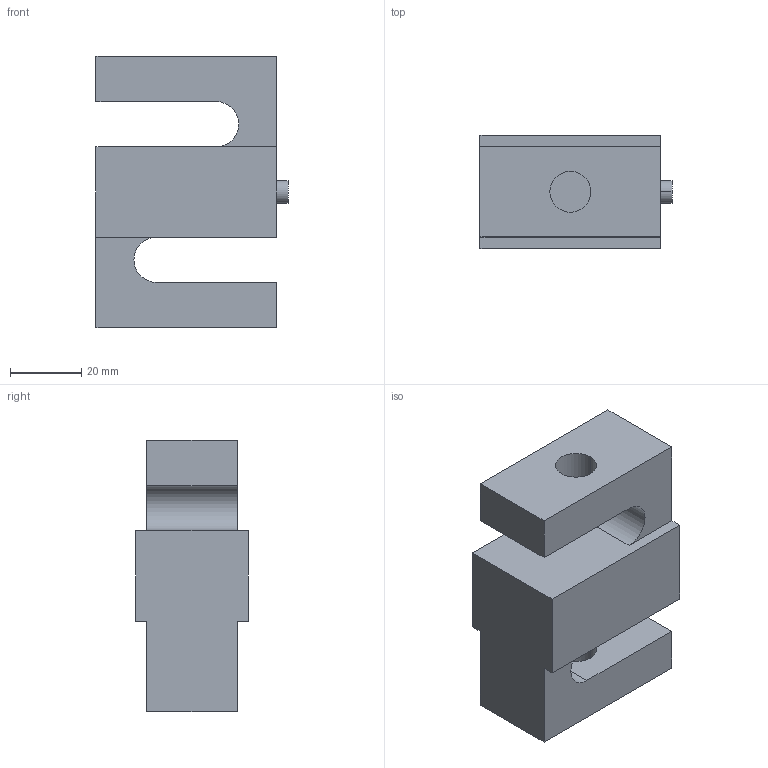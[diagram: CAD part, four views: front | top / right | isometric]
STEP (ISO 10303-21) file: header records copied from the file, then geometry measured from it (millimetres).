
FILE_DESCRIPTION (( 'STEP AP214' ), '1' );
FILE_NAME ('SS1009-2-3K.STEP', '2014-05-20T18:49:17', ( '' ), ( '' ), 'SwSTEP 2.0', 'SolidWorks 2008', '' );
FILE_SCHEMA (( 'AUTOMOTIVE_DESIGN' ));
Length unit declared in the file: inch
Products named in the file (1): SS1009-2-3K
Bounding box: 53.98 x 31.75 x 76.2 mm (x, y, z)
Volume: 78961.8 mm3; surface area: 17557.9 mm2
Topology: 1 solids, 1 shells, 25 faces, 66 edges, 44 vertices
Faces by surface type: plane 17, cylinder 8
Entity records: 863 total; most frequent: CARTESIAN_POINT 136, DIRECTION 134, ORIENTED_EDGE 132, EDGE_CURVE 66, LINE 50, VECTOR 50, VERTEX_POINT 44, AXIS2_PLACEMENT_3D 42
